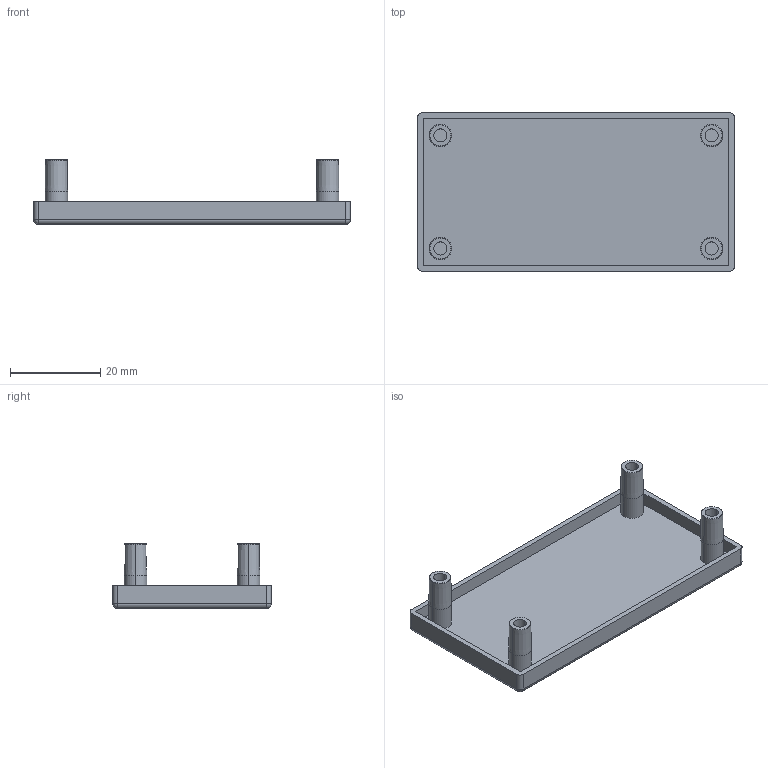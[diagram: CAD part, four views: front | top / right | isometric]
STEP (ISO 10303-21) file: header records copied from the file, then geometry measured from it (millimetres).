
FILE_DESCRIPTION (( 'STEP AP203' ), '1' );
FILE_NAME ('DEC3570.STEP', '2022-06-24T02:23:10', ( '' ), ( '' ), 'SwSTEP 2.0', 'SolidWorks 2017', '' );
FILE_SCHEMA (( 'CONFIG_CONTROL_DESIGN' ));
Length unit declared in the file: millimetre
Products named in the file (1): DEC3570
Bounding box: 70 x 35 x 14.3 mm (x, y, z)
Volume: 6209.3 mm3; surface area: 7654.7 mm2
Topology: 1 solids, 1 shells, 63 faces, 132 edges, 76 vertices
Faces by surface type: cylinder 24, plane 19, torus 8, cone 8, sphere 4
Entity records: 1727 total; most frequent: DIRECTION 328, CARTESIAN_POINT 268, ORIENTED_EDGE 256, AXIS2_PLACEMENT_3D 136, EDGE_CURVE 128, VERTEX_POINT 76, EDGE_LOOP 72, CIRCLE 72
